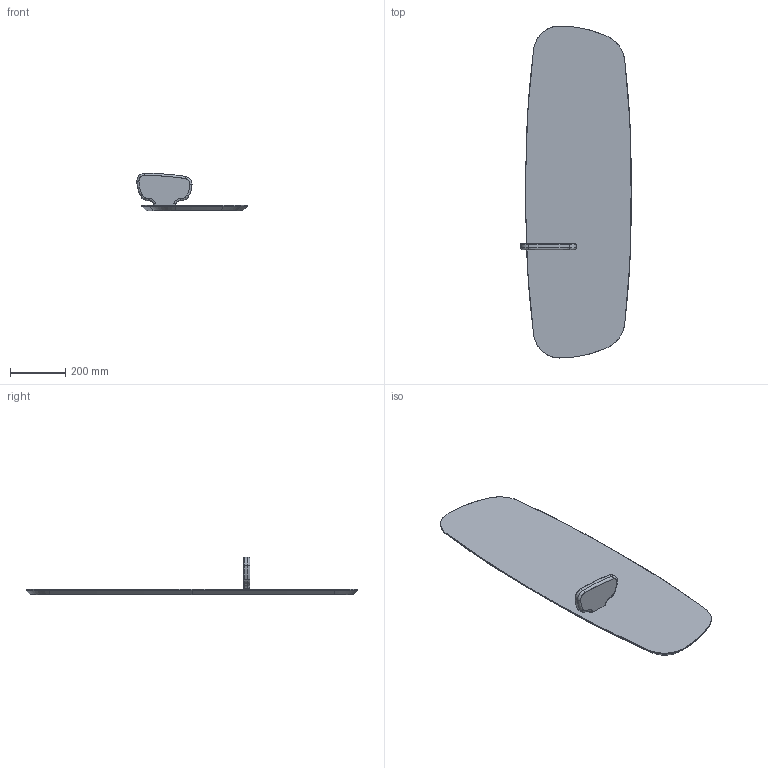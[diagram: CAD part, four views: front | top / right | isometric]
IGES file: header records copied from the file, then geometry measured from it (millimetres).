
Start section: SolidWorks IGES file using analytic representation for surfaces
Global section: file name: N:\OT\OFICINA TECNICA\PROYECTOS\EN DESARROLLO\COLECCION_MOMENTOS\ESPEJO_CUERPO\3D SOLIDWORKS\ESPEJO_DE_PARED.IGS; native system: SolidWorks 2016; preprocessor: SolidWorks 2016; author: Usuario; date: 190802.112847; units: millimetre
Bounding box: 399.59 x 1200 x 136 mm (x, y, z)
Surface area: 1764766.1 mm2 (no closed solid volume)
Topology: 0 solids, 0 shells, 229 faces, 3478 edges, 3478 vertices
Faces by surface type: revolution 120, bspline 109
